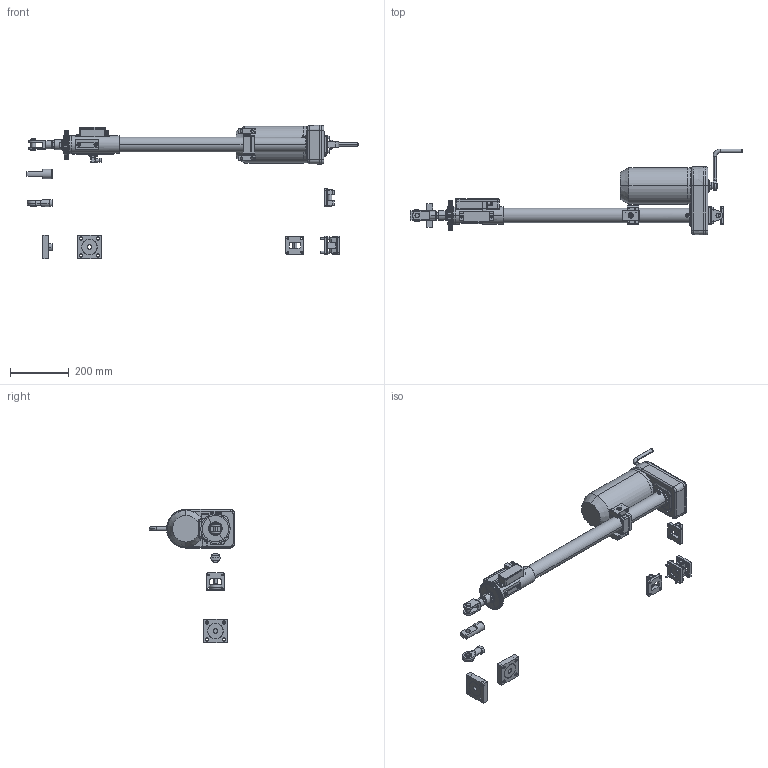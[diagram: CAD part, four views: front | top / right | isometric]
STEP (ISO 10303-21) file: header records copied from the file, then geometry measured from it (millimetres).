
FILE_DESCRIPTION (( 'STEP AP203' ), '1' );
FILE_NAME ('旆1 600.STEP', '2016-12-15T06:46:12', ( '' ), ( '' ), 'SwSTEP 2.0', 'SolidWorks 2012', '' );
FILE_SCHEMA (( 'CONFIG_CONTROL_DESIGN' ));
Products named in the file (21): 旆1 600; ﾍ瑕; 秮鶋趌600; 憵儴樇罻; ãàéêà äâîéíàÿ; 濱螳､ 600; 苂; Âòóëêà ñ ÄÂ; 笭; 抌暊; 俵; 眧; 畟; 眐; Ãîôð ñ1 200; 邴; ÍÔ_Œ16å1.5; îñü ôëàíöà_Œ16å1.5; 鐏鳧氀 縺膰翴籦鴀趌80; 迕_063; 迍_TI D50
Assembly tree (21 placements, depth 3):
  旆1 600
    迍_TI D50
    迕_063
    ÍÔ_Œ16å1.5
      鐏鳧氀 縺膰翴籦鴀趌80
      îñü ôëàíöà_Œ16å1.5
    邴
    Ãîôð ñ1 200
    眐
    畟  x2
    眧
    俵
    抌暊
    笭
    Âòóëêà ñ ÄÂ
    苂
    秮鶋趌600
      濱螳､ 600
      ãàéêà äâîéíàÿ
      憵儴樇罻
    ﾍ瑕
Bounding box: 1135 x 293.4 x 456.4 mm (x, y, z)
Volume: 725711.6 mm3; surface area: 939989.5 mm2
Topology: 10 solids, 150 shells, 2100 faces, 5667 edges, 3827 vertices
Faces by surface type: cylinder 880, plane 793, cone 232, torus 132, bspline 42, sphere 21
Entity records: 67158 total; most frequent: CARTESIAN_POINT 15204, DIRECTION 11164, ORIENTED_EDGE 9276, EDGE_CURVE 5237, AXIS2_PLACEMENT_3D 4466, VERTEX_POINT 3552, CIRCLE 2525, EDGE_LOOP 2330
